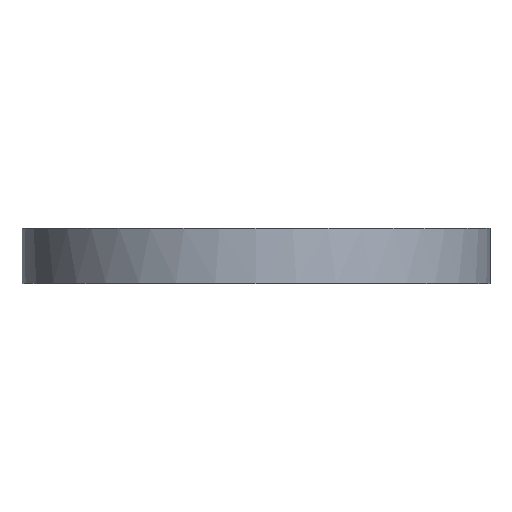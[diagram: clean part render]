
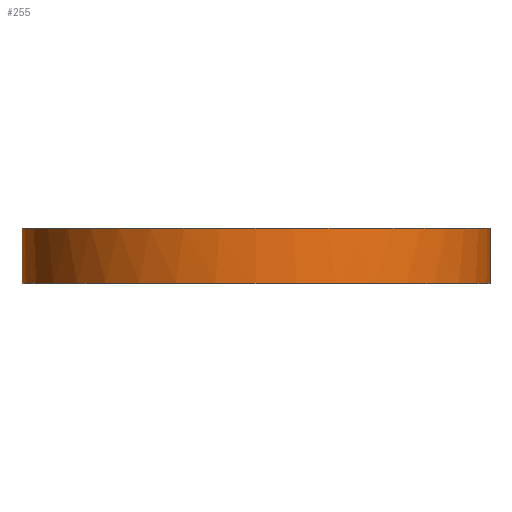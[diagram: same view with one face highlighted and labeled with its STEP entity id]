
A CAD part, top view. The second image highlights one B-rep face of the part: STEP entity #255.
In plain terms, the highlighted cylindrical face has radius 85 mm (diameter 170 mm), a full revolution.
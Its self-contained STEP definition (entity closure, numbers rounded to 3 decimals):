
#121=CYLINDRICAL_SURFACE('',#1626,85.);
#184=LINE('',#2416,#220);
#185=LINE('',#2418,#221);
#186=LINE('',#2420,#222);
#187=LINE('',#2422,#223);
#220=VECTOR('',#1931,1.);
#221=VECTOR('',#1932,1.);
#222=VECTOR('',#1933,1.);
#223=VECTOR('',#1934,1.);
#255=ADVANCED_FACE('',(#447,#448),#121,.T.);
#447=FACE_BOUND('',#651,.T.);
#448=FACE_BOUND('',#652,.T.);
#651=EDGE_LOOP('',(#892,#893,#894,#895,#896,#897,#898,#899,#900,#901,#902,
#903));
#652=EDGE_LOOP('',(#904));
#892=ORIENTED_EDGE('',*,*,#1347,.F.);
#893=ORIENTED_EDGE('',*,*,#1281,.F.);
#894=ORIENTED_EDGE('',*,*,#1348,.T.);
#895=ORIENTED_EDGE('',*,*,#1348,.F.);
#896=ORIENTED_EDGE('',*,*,#1280,.T.);
#897=ORIENTED_EDGE('',*,*,#1349,.F.);
#898=ORIENTED_EDGE('',*,*,#1349,.T.);
#899=ORIENTED_EDGE('',*,*,#1279,.F.);
#900=ORIENTED_EDGE('',*,*,#1350,.F.);
#901=ORIENTED_EDGE('',*,*,#1350,.T.);
#902=ORIENTED_EDGE('',*,*,#1282,.F.);
#903=ORIENTED_EDGE('',*,*,#1347,.T.);
#904=ORIENTED_EDGE('',*,*,#1321,.T.);
#1138=VERTEX_POINT('',#2274);
#1139=VERTEX_POINT('',#2275);
#1140=VERTEX_POINT('',#2277);
#1141=VERTEX_POINT('',#2279);
#1180=VERTEX_POINT('',#2359);
#1206=VERTEX_POINT('',#2417);
#1207=VERTEX_POINT('',#2419);
#1208=VERTEX_POINT('',#2421);
#1209=VERTEX_POINT('',#2423);
#1279=EDGE_CURVE('',#1138,#1139,#1436,.T.);
#1280=EDGE_CURVE('',#1140,#1139,#1437,.T.);
#1281=EDGE_CURVE('',#1140,#1141,#1438,.T.);
#1282=EDGE_CURVE('',#1141,#1138,#1439,.T.);
#1321=EDGE_CURVE('',#1180,#1180,#1474,.T.);
#1347=EDGE_CURVE('',#1141,#1206,#184,.T.);
#1348=EDGE_CURVE('',#1140,#1207,#185,.T.);
#1349=EDGE_CURVE('',#1208,#1139,#186,.T.);
#1350=EDGE_CURVE('',#1209,#1138,#187,.T.);
#1436=CIRCLE('',#1559,85.);
#1437=CIRCLE('',#1560,85.);
#1438=CIRCLE('',#1561,85.);
#1439=CIRCLE('',#1562,85.);
#1474=CIRCLE('',#1598,85.);
#1559=AXIS2_PLACEMENT_3D('',#2273,#1789,#1790);
#1560=AXIS2_PLACEMENT_3D('',#2276,#1791,#1792);
#1561=AXIS2_PLACEMENT_3D('',#2278,#1793,#1794);
#1562=AXIS2_PLACEMENT_3D('',#2280,#1795,#1796);
#1598=AXIS2_PLACEMENT_3D('',#2358,#1871,#1872);
#1626=AXIS2_PLACEMENT_3D('',#2424,#1935,#1936);
#1789=DIRECTION('',(0.,1.,0.));
#1790=DIRECTION('',(0.,0.,1.));
#1791=DIRECTION('',(0.,-1.,0.));
#1792=DIRECTION('',(0.,0.,1.));
#1793=DIRECTION('',(0.,1.,0.));
#1794=DIRECTION('',(0.,0.,1.));
#1795=DIRECTION('',(0.,1.,0.));
#1796=DIRECTION('',(0.,0.,1.));
#1871=DIRECTION('',(0.,1.,0.));
#1872=DIRECTION('',(0.,0.,1.));
#1931=DIRECTION('',(0.,-1.,0.));
#1932=DIRECTION('',(0.,-1.,0.));
#1933=DIRECTION('',(0.,1.,0.));
#1934=DIRECTION('',(0.,1.,0.));
#1935=DIRECTION('',(0.,1.,0.));
#1936=DIRECTION('',(0.,0.,1.));
#2273=CARTESIAN_POINT('',(1294.052,691.636,135.));
#2274=CARTESIAN_POINT('',(1374.737,691.636,108.264));
#2275=CARTESIAN_POINT('',(1213.366,691.636,108.264));
#2276=CARTESIAN_POINT('',(1294.052,691.636,135.));
#2277=CARTESIAN_POINT('',(1213.366,691.636,161.736));
#2278=CARTESIAN_POINT('',(1294.052,691.636,135.));
#2279=CARTESIAN_POINT('',(1374.737,691.636,161.736));
#2280=CARTESIAN_POINT('',(1294.052,691.636,135.));
#2358=CARTESIAN_POINT('',(1294.052,671.636,135.));
#2359=CARTESIAN_POINT('',(1294.052,671.636,220.));
#2416=CARTESIAN_POINT('',(1374.737,671.636,161.736));
#2417=CARTESIAN_POINT('',(1374.737,681.636,161.736));
#2418=CARTESIAN_POINT('',(1213.366,671.636,161.736));
#2419=CARTESIAN_POINT('',(1213.366,681.636,161.736));
#2420=CARTESIAN_POINT('',(1213.366,671.636,108.264));
#2421=CARTESIAN_POINT('',(1213.366,681.636,108.264));
#2422=CARTESIAN_POINT('',(1374.737,671.636,108.264));
#2423=CARTESIAN_POINT('',(1374.737,681.636,108.264));
#2424=CARTESIAN_POINT('',(1294.052,671.636,135.));
